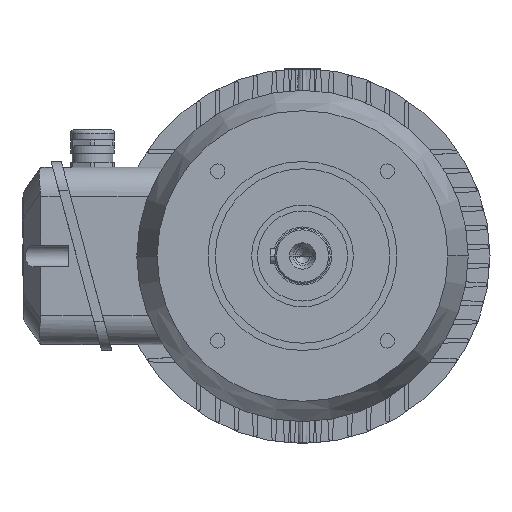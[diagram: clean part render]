
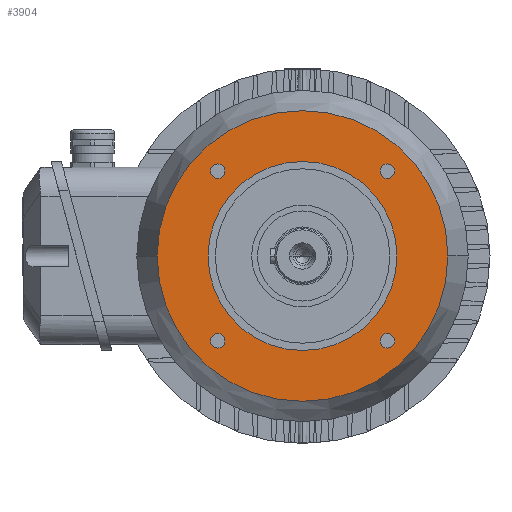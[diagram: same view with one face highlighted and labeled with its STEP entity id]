
A CAD part, left-side view. The second image highlights one B-rep face of the part: STEP entity #3904.
In plain terms, the highlighted planar face has unit normal (-1, 0, 0).
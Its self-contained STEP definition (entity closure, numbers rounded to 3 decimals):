
#16 = EDGE_LOOP ( 'NONE', ( #17349, #9081 ) ) ;
#770 = CARTESIAN_POINT ( 'NONE',  ( -70., -100., 0. ) ) ;
#1195 = CIRCLE ( 'NONE', #22004, 5. ) ;
#1493 = AXIS2_PLACEMENT_3D ( 'NONE', #21907, #19305, #26418 ) ;
#1678 = DIRECTION ( 'NONE',  ( 0., -1., 0. ) ) ;
#1690 = ORIENTED_EDGE ( 'NONE', *, *, #23491, .F. ) ;
#1817 = CARTESIAN_POINT ( 'NONE',  ( -70., -63.336, 58.336 ) ) ;
#1996 = CIRCLE ( 'NONE', #14512, 5. ) ;
#2174 = DIRECTION ( 'NONE',  ( 0., 1., 0. ) ) ;
#2240 = VERTEX_POINT ( 'NONE', #3582 ) ;
#2315 = FACE_BOUND ( 'NONE', #16, .T. ) ;
#2898 = EDGE_LOOP ( 'NONE', ( #4241, #4826 ) ) ;
#3347 = CARTESIAN_POINT ( 'NONE',  ( -70., -53.336, 58.336 ) ) ;
#3582 = CARTESIAN_POINT ( 'NONE',  ( -70., 100., 0. ) ) ;
#3702 = ORIENTED_EDGE ( 'NONE', *, *, #17345, .F. ) ;
#3904 = ADVANCED_FACE ( 'NONE', ( #4923, #27762, #2315, #10536, #29668, #28878 ), #28567, .T. ) ;
#4241 = ORIENTED_EDGE ( 'NONE', *, *, #30930, .T. ) ;
#4420 = CIRCLE ( 'NONE', #24665, 5. ) ;
#4435 = EDGE_CURVE ( 'NONE', #24841, #19538, #1195, .T. ) ;
#4826 = ORIENTED_EDGE ( 'NONE', *, *, #8197, .T. ) ;
#4923 = FACE_OUTER_BOUND ( 'NONE', #20585, .T. ) ;
#6163 = DIRECTION ( 'NONE',  ( -1., 0., 0. ) ) ;
#6220 = EDGE_CURVE ( 'NONE', #20145, #2240, #24693, .T. ) ;
#6488 = VERTEX_POINT ( 'NONE', #27790 ) ;
#6511 = EDGE_LOOP ( 'NONE', ( #16261, #3702 ) ) ;
#6877 = EDGE_CURVE ( 'NONE', #6488, #9535, #4420, .T. ) ;
#6984 = DIRECTION ( 'NONE',  ( 0., 0., 1. ) ) ;
#7002 = CARTESIAN_POINT ( 'NONE',  ( -70., 63.336, 58.336 ) ) ;
#7122 = DIRECTION ( 'NONE',  ( -1., 0., 0. ) ) ;
#7526 = AXIS2_PLACEMENT_3D ( 'NONE', #19359, #9501, #6984 ) ;
#7828 = DIRECTION ( 'NONE',  ( 0., -1., 0. ) ) ;
#8105 = CIRCLE ( 'NONE', #19945, 5. ) ;
#8131 = AXIS2_PLACEMENT_3D ( 'NONE', #22452, #20255, #15333 ) ;
#8197 = EDGE_CURVE ( 'NONE', #19235, #20404, #12617, .T. ) ;
#9081 = ORIENTED_EDGE ( 'NONE', *, *, #14502, .F. ) ;
#9206 = VERTEX_POINT ( 'NONE', #1817 ) ;
#9248 = CARTESIAN_POINT ( 'NONE',  ( -70., -65., 0. ) ) ;
#9316 = AXIS2_PLACEMENT_3D ( 'NONE', #11679, #11158, #1678 ) ;
#9501 = DIRECTION ( 'NONE',  ( -1., 0., 0. ) ) ;
#9535 = VERTEX_POINT ( 'NONE', #20103 ) ;
#9613 = DIRECTION ( 'NONE',  ( 1., 0., 0. ) ) ;
#9667 = DIRECTION ( 'NONE',  ( 0., -1., 0. ) ) ;
#10080 = CIRCLE ( 'NONE', #8131, 65. ) ;
#10536 = FACE_BOUND ( 'NONE', #6511, .T. ) ;
#10881 = DIRECTION ( 'NONE',  ( 0., -1., 0. ) ) ;
#11158 = DIRECTION ( 'NONE',  ( -1., 0., 0. ) ) ;
#11679 = CARTESIAN_POINT ( 'NONE',  ( -70., -58.336, 58.336 ) ) ;
#12508 = VERTEX_POINT ( 'NONE', #18430 ) ;
#12617 = CIRCLE ( 'NONE', #24915, 65. ) ;
#12934 = VERTEX_POINT ( 'NONE', #3347 ) ;
#13126 = CIRCLE ( 'NONE', #21445, 100. ) ;
#13307 = CIRCLE ( 'NONE', #9316, 5. ) ;
#13788 = CIRCLE ( 'NONE', #1493, 5. ) ;
#14186 = DIRECTION ( 'NONE',  ( 1., 0., 0. ) ) ;
#14283 = AXIS2_PLACEMENT_3D ( 'NONE', #26210, #7122, #23907 ) ;
#14502 = EDGE_CURVE ( 'NONE', #12934, #9206, #13307, .T. ) ;
#14512 = AXIS2_PLACEMENT_3D ( 'NONE', #15810, #6163, #10881 ) ;
#14995 = EDGE_LOOP ( 'NONE', ( #26655, #29477 ) ) ;
#15333 = DIRECTION ( 'NONE',  ( 0., 1., 0. ) ) ;
#15810 = CARTESIAN_POINT ( 'NONE',  ( -70., -58.336, 58.336 ) ) ;
#16261 = ORIENTED_EDGE ( 'NONE', *, *, #17203, .F. ) ;
#16407 = CIRCLE ( 'NONE', #14283, 5. ) ;
#16697 = DIRECTION ( 'NONE',  ( 0., 1., 0. ) ) ;
#16743 = CARTESIAN_POINT ( 'NONE',  ( -70., -53.336, -58.336 ) ) ;
#17119 = CARTESIAN_POINT ( 'NONE',  ( -70., 58.336, 58.336 ) ) ;
#17203 = EDGE_CURVE ( 'NONE', #12508, #27118, #16407, .T. ) ;
#17345 = EDGE_CURVE ( 'NONE', #27118, #12508, #13788, .T. ) ;
#17349 = ORIENTED_EDGE ( 'NONE', *, *, #28348, .F. ) ;
#17503 = CARTESIAN_POINT ( 'NONE',  ( -70., 58.336, -58.336 ) ) ;
#17592 = CARTESIAN_POINT ( 'NONE',  ( -70., 58.336, -58.336 ) ) ;
#18259 = CARTESIAN_POINT ( 'NONE',  ( -70., 53.336, 58.336 ) ) ;
#18430 = CARTESIAN_POINT ( 'NONE',  ( -70., -63.336, -58.336 ) ) ;
#18548 = EDGE_CURVE ( 'NONE', #19538, #24841, #8105, .T. ) ;
#19235 = VERTEX_POINT ( 'NONE', #9248 ) ;
#19305 = DIRECTION ( 'NONE',  ( -1., 0., 0. ) ) ;
#19324 = DIRECTION ( 'NONE',  ( -1., 0., 0. ) ) ;
#19359 = CARTESIAN_POINT ( 'NONE',  ( -70., 65., 0. ) ) ;
#19379 = CARTESIAN_POINT ( 'NONE',  ( -70., 0., 0. ) ) ;
#19472 = DIRECTION ( 'NONE',  ( 0., 1., 0. ) ) ;
#19538 = VERTEX_POINT ( 'NONE', #18259 ) ;
#19945 = AXIS2_PLACEMENT_3D ( 'NONE', #29972, #30078, #27669 ) ;
#20011 = DIRECTION ( 'NONE',  ( -1., 0., 0. ) ) ;
#20103 = CARTESIAN_POINT ( 'NONE',  ( -70., 63.336, -58.336 ) ) ;
#20145 = VERTEX_POINT ( 'NONE', #770 ) ;
#20255 = DIRECTION ( 'NONE',  ( 1., 0., 0. ) ) ;
#20404 = VERTEX_POINT ( 'NONE', #28918 ) ;
#20585 = EDGE_LOOP ( 'NONE', ( #1690, #23986 ) ) ;
#21086 = DIRECTION ( 'NONE',  ( 1., 0., 0. ) ) ;
#21445 = AXIS2_PLACEMENT_3D ( 'NONE', #19379, #9613, #19472 ) ;
#21907 = CARTESIAN_POINT ( 'NONE',  ( -70., -58.336, -58.336 ) ) ;
#22004 = AXIS2_PLACEMENT_3D ( 'NONE', #17119, #19324, #9667 ) ;
#22036 = EDGE_LOOP ( 'NONE', ( #24772, #29992 ) ) ;
#22101 = DIRECTION ( 'NONE',  ( 0., -1., 0. ) ) ;
#22452 = CARTESIAN_POINT ( 'NONE',  ( -70., 0., 0. ) ) ;
#23491 = EDGE_CURVE ( 'NONE', #2240, #20145, #13126, .T. ) ;
#23512 = AXIS2_PLACEMENT_3D ( 'NONE', #17592, #20011, #7828 ) ;
#23907 = DIRECTION ( 'NONE',  ( 0., -1., 0. ) ) ;
#23986 = ORIENTED_EDGE ( 'NONE', *, *, #6220, .F. ) ;
#24665 = AXIS2_PLACEMENT_3D ( 'NONE', #17503, #27146, #22101 ) ;
#24693 = CIRCLE ( 'NONE', #25863, 100. ) ;
#24772 = ORIENTED_EDGE ( 'NONE', *, *, #18548, .F. ) ;
#24841 = VERTEX_POINT ( 'NONE', #7002 ) ;
#24915 = AXIS2_PLACEMENT_3D ( 'NONE', #28097, #21086, #2174 ) ;
#25136 = CIRCLE ( 'NONE', #23512, 5. ) ;
#25821 = EDGE_CURVE ( 'NONE', #9535, #6488, #25136, .T. ) ;
#25863 = AXIS2_PLACEMENT_3D ( 'NONE', #28727, #14186, #16697 ) ;
#26210 = CARTESIAN_POINT ( 'NONE',  ( -70., -58.336, -58.336 ) ) ;
#26418 = DIRECTION ( 'NONE',  ( 0., -1., 0. ) ) ;
#26655 = ORIENTED_EDGE ( 'NONE', *, *, #6877, .F. ) ;
#27118 = VERTEX_POINT ( 'NONE', #16743 ) ;
#27146 = DIRECTION ( 'NONE',  ( -1., 0., 0. ) ) ;
#27669 = DIRECTION ( 'NONE',  ( 0., -1., 0. ) ) ;
#27762 = FACE_BOUND ( 'NONE', #22036, .T. ) ;
#27790 = CARTESIAN_POINT ( 'NONE',  ( -70., 53.336, -58.336 ) ) ;
#28097 = CARTESIAN_POINT ( 'NONE',  ( -70., 0., 0. ) ) ;
#28348 = EDGE_CURVE ( 'NONE', #9206, #12934, #1996, .T. ) ;
#28567 = PLANE ( 'NONE',  #7526 ) ;
#28727 = CARTESIAN_POINT ( 'NONE',  ( -70., 0., 0. ) ) ;
#28878 = FACE_BOUND ( 'NONE', #2898, .T. ) ;
#28918 = CARTESIAN_POINT ( 'NONE',  ( -70., 65., 0. ) ) ;
#29477 = ORIENTED_EDGE ( 'NONE', *, *, #25821, .F. ) ;
#29668 = FACE_BOUND ( 'NONE', #14995, .T. ) ;
#29972 = CARTESIAN_POINT ( 'NONE',  ( -70., 58.336, 58.336 ) ) ;
#29992 = ORIENTED_EDGE ( 'NONE', *, *, #4435, .F. ) ;
#30078 = DIRECTION ( 'NONE',  ( -1., 0., 0. ) ) ;
#30930 = EDGE_CURVE ( 'NONE', #20404, #19235, #10080, .T. ) ;
